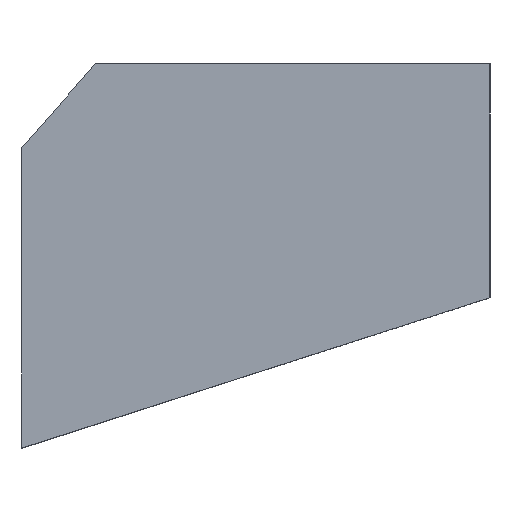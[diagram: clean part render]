
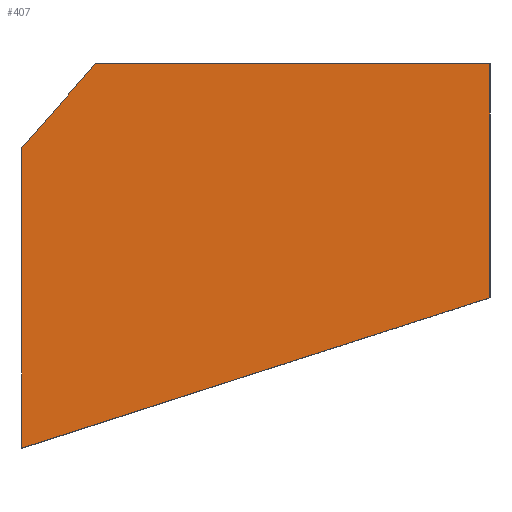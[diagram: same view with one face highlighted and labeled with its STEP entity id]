
A CAD part, left-side view. The second image highlights one B-rep face of the part: STEP entity #407.
In plain terms, the highlighted planar face has unit normal (-1, 0, 0).
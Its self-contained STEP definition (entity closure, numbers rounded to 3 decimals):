
#22 = VERTEX_POINT('',#23);
#23 = CARTESIAN_POINT('',(-33.,12.,-30.75));
#32 = PLANE('',#33);
#33 = AXIS2_PLACEMENT_3D('',#34,#35,#36);
#34 = CARTESIAN_POINT('',(-33.,12.,-30.75));
#35 = DIRECTION('',(0.,-1.,0.));
#36 = DIRECTION('',(0.,0.,1.));
#44 = PLANE('',#45);
#45 = AXIS2_PLACEMENT_3D('',#46,#47,#48);
#46 = CARTESIAN_POINT('',(-33.,-2.,-26.25));
#47 = DIRECTION('',(-0.,0.306,0.952));
#48 = DIRECTION('',(0.,0.952,-0.306));
#85 = VERTEX_POINT('',#86);
#86 = CARTESIAN_POINT('',(-33.,12.,-21.75));
#100 = PLANE('',#101);
#101 = AXIS2_PLACEMENT_3D('',#102,#103,#104);
#102 = CARTESIAN_POINT('',(-33.,12.,-21.75));
#103 = DIRECTION('',(0.,-0.751,-0.661));
#104 = DIRECTION('',(0.,-0.661,0.751));
#112 = EDGE_CURVE('',#22,#85,#113,.T.);
#113 = SURFACE_CURVE('',#114,(#118,#125),.PCURVE_S1.);
#114 = LINE('',#115,#116);
#115 = CARTESIAN_POINT('',(-33.,12.,-30.75));
#116 = VECTOR('',#117,1.);
#117 = DIRECTION('',(0.,0.,1.));
#118 = PCURVE('',#32,#119);
#119 = DEFINITIONAL_REPRESENTATION('',(#120),#124);
#120 = LINE('',#121,#122);
#121 = CARTESIAN_POINT('',(0.,0.));
#122 = VECTOR('',#123,1.);
#123 = DIRECTION('',(1.,0.));
#124 = ( GEOMETRIC_REPRESENTATION_CONTEXT(2) 
PARAMETRIC_REPRESENTATION_CONTEXT() REPRESENTATION_CONTEXT('2D SPACE',''
  ) );
#125 = PCURVE('',#126,#131);
#126 = PLANE('',#127);
#127 = AXIS2_PLACEMENT_3D('',#128,#129,#130);
#128 = CARTESIAN_POINT('',(-33.,5.451,-24.217));
#129 = DIRECTION('',(1.,0.,0.));
#130 = DIRECTION('',(-0.,0.,1.));
#131 = DEFINITIONAL_REPRESENTATION('',(#132),#136);
#132 = LINE('',#133,#134);
#133 = CARTESIAN_POINT('',(-6.533,-6.549));
#134 = VECTOR('',#135,1.);
#135 = DIRECTION('',(1.,0.));
#136 = ( GEOMETRIC_REPRESENTATION_CONTEXT(2) 
PARAMETRIC_REPRESENTATION_CONTEXT() REPRESENTATION_CONTEXT('2D SPACE',''
  ) );
#166 = VERTEX_POINT('',#167);
#167 = CARTESIAN_POINT('',(-33.,9.8,-19.25));
#181 = PLANE('',#182);
#182 = AXIS2_PLACEMENT_3D('',#183,#184,#185);
#183 = CARTESIAN_POINT('',(-33.,9.8,-19.25));
#184 = DIRECTION('',(0.,0.,-1.));
#185 = DIRECTION('',(0.,-1.,0.));
#193 = EDGE_CURVE('',#85,#166,#194,.T.);
#194 = SURFACE_CURVE('',#195,(#199,#206),.PCURVE_S1.);
#195 = LINE('',#196,#197);
#196 = CARTESIAN_POINT('',(-33.,12.,-21.75));
#197 = VECTOR('',#198,1.);
#198 = DIRECTION('',(0.,-0.661,0.751));
#199 = PCURVE('',#100,#200);
#200 = DEFINITIONAL_REPRESENTATION('',(#201),#205);
#201 = LINE('',#202,#203);
#202 = CARTESIAN_POINT('',(0.,0.));
#203 = VECTOR('',#204,1.);
#204 = DIRECTION('',(1.,0.));
#205 = ( GEOMETRIC_REPRESENTATION_CONTEXT(2) 
PARAMETRIC_REPRESENTATION_CONTEXT() REPRESENTATION_CONTEXT('2D SPACE',''
  ) );
#206 = PCURVE('',#126,#207);
#207 = DEFINITIONAL_REPRESENTATION('',(#208),#212);
#208 = LINE('',#209,#210);
#209 = CARTESIAN_POINT('',(2.467,-6.549));
#210 = VECTOR('',#211,1.);
#211 = DIRECTION('',(0.751,0.661));
#212 = ( GEOMETRIC_REPRESENTATION_CONTEXT(2) 
PARAMETRIC_REPRESENTATION_CONTEXT() REPRESENTATION_CONTEXT('2D SPACE',''
  ) );
#242 = VERTEX_POINT('',#243);
#243 = CARTESIAN_POINT('',(-33.,-2.,-19.25));
#257 = PLANE('',#258);
#258 = AXIS2_PLACEMENT_3D('',#259,#260,#261);
#259 = CARTESIAN_POINT('',(-33.,-2.,-19.25));
#260 = DIRECTION('',(-0.,1.,0.));
#261 = DIRECTION('',(0.,0.,-1.));
#269 = EDGE_CURVE('',#166,#242,#270,.T.);
#270 = SURFACE_CURVE('',#271,(#275,#282),.PCURVE_S1.);
#271 = LINE('',#272,#273);
#272 = CARTESIAN_POINT('',(-33.,9.8,-19.25));
#273 = VECTOR('',#274,1.);
#274 = DIRECTION('',(0.,-1.,0.));
#275 = PCURVE('',#181,#276);
#276 = DEFINITIONAL_REPRESENTATION('',(#277),#281);
#277 = LINE('',#278,#279);
#278 = CARTESIAN_POINT('',(0.,-0.));
#279 = VECTOR('',#280,1.);
#280 = DIRECTION('',(1.,0.));
#281 = ( GEOMETRIC_REPRESENTATION_CONTEXT(2) 
PARAMETRIC_REPRESENTATION_CONTEXT() REPRESENTATION_CONTEXT('2D SPACE',''
  ) );
#282 = PCURVE('',#126,#283);
#283 = DEFINITIONAL_REPRESENTATION('',(#284),#288);
#284 = LINE('',#285,#286);
#285 = CARTESIAN_POINT('',(4.967,-4.349));
#286 = VECTOR('',#287,1.);
#287 = DIRECTION('',(0.,1.));
#288 = ( GEOMETRIC_REPRESENTATION_CONTEXT(2) 
PARAMETRIC_REPRESENTATION_CONTEXT() REPRESENTATION_CONTEXT('2D SPACE',''
  ) );
#318 = VERTEX_POINT('',#319);
#319 = CARTESIAN_POINT('',(-33.,-2.,-26.25));
#340 = EDGE_CURVE('',#242,#318,#341,.T.);
#341 = SURFACE_CURVE('',#342,(#346,#353),.PCURVE_S1.);
#342 = LINE('',#343,#344);
#343 = CARTESIAN_POINT('',(-33.,-2.,-19.25));
#344 = VECTOR('',#345,1.);
#345 = DIRECTION('',(0.,0.,-1.));
#346 = PCURVE('',#257,#347);
#347 = DEFINITIONAL_REPRESENTATION('',(#348),#352);
#348 = LINE('',#349,#350);
#349 = CARTESIAN_POINT('',(0.,0.));
#350 = VECTOR('',#351,1.);
#351 = DIRECTION('',(1.,0.));
#352 = ( GEOMETRIC_REPRESENTATION_CONTEXT(2) 
PARAMETRIC_REPRESENTATION_CONTEXT() REPRESENTATION_CONTEXT('2D SPACE',''
  ) );
#353 = PCURVE('',#126,#354);
#354 = DEFINITIONAL_REPRESENTATION('',(#355),#359);
#355 = LINE('',#356,#357);
#356 = CARTESIAN_POINT('',(4.967,7.451));
#357 = VECTOR('',#358,1.);
#358 = DIRECTION('',(-1.,0.));
#359 = ( GEOMETRIC_REPRESENTATION_CONTEXT(2) 
PARAMETRIC_REPRESENTATION_CONTEXT() REPRESENTATION_CONTEXT('2D SPACE',''
  ) );
#387 = EDGE_CURVE('',#318,#22,#388,.T.);
#388 = SURFACE_CURVE('',#389,(#393,#400),.PCURVE_S1.);
#389 = LINE('',#390,#391);
#390 = CARTESIAN_POINT('',(-33.,-2.,-26.25));
#391 = VECTOR('',#392,1.);
#392 = DIRECTION('',(0.,0.952,-0.306));
#393 = PCURVE('',#44,#394);
#394 = DEFINITIONAL_REPRESENTATION('',(#395),#399);
#395 = LINE('',#396,#397);
#396 = CARTESIAN_POINT('',(0.,0.));
#397 = VECTOR('',#398,1.);
#398 = DIRECTION('',(1.,0.));
#399 = ( GEOMETRIC_REPRESENTATION_CONTEXT(2) 
PARAMETRIC_REPRESENTATION_CONTEXT() REPRESENTATION_CONTEXT('2D SPACE',''
  ) );
#400 = PCURVE('',#126,#401);
#401 = DEFINITIONAL_REPRESENTATION('',(#402),#406);
#402 = LINE('',#403,#404);
#403 = CARTESIAN_POINT('',(-2.033,7.451));
#404 = VECTOR('',#405,1.);
#405 = DIRECTION('',(-0.306,-0.952));
#406 = ( GEOMETRIC_REPRESENTATION_CONTEXT(2) 
PARAMETRIC_REPRESENTATION_CONTEXT() REPRESENTATION_CONTEXT('2D SPACE',''
  ) );
#407 = ADVANCED_FACE('',(#408),#126,.F.);
#408 = FACE_BOUND('',#409,.F.);
#409 = EDGE_LOOP('',(#410,#411,#412,#413,#414));
#410 = ORIENTED_EDGE('',*,*,#112,.T.);
#411 = ORIENTED_EDGE('',*,*,#193,.T.);
#412 = ORIENTED_EDGE('',*,*,#269,.T.);
#413 = ORIENTED_EDGE('',*,*,#340,.T.);
#414 = ORIENTED_EDGE('',*,*,#387,.T.);
